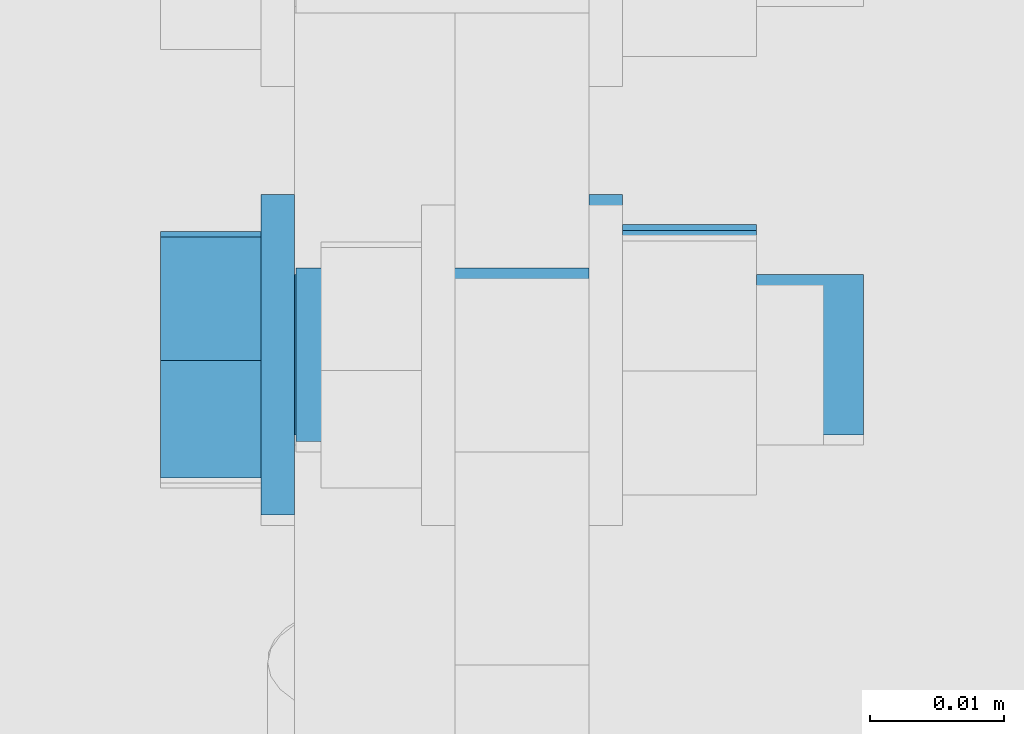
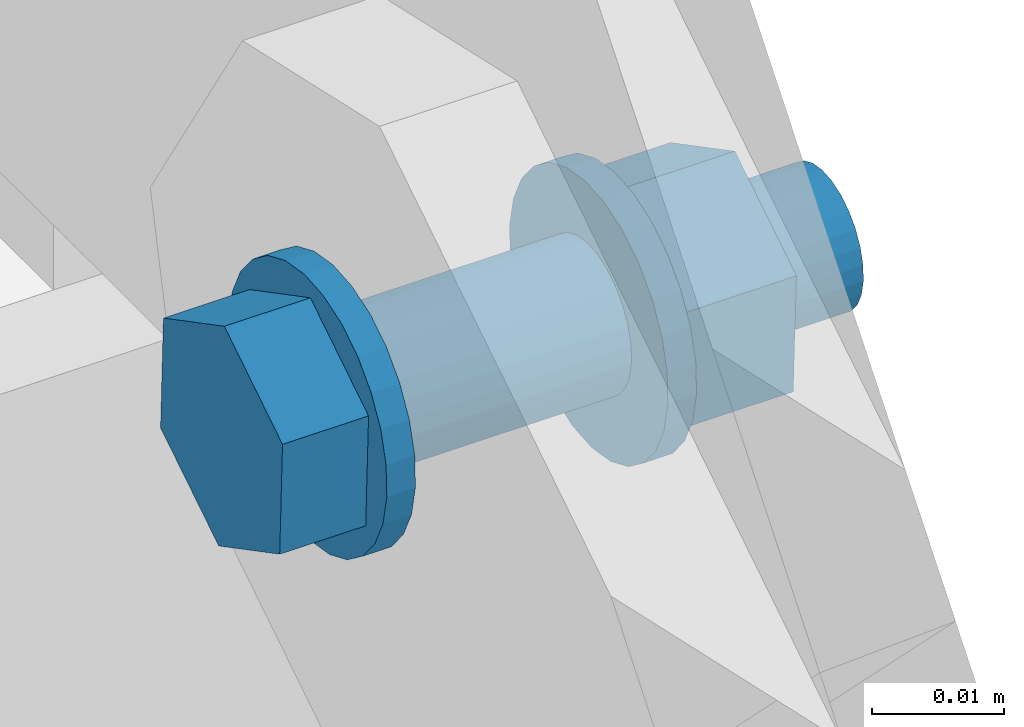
# One storey, part 265 of 271: 1 mechanical fastener, 1 element without a shape of its own.
"""IFC2X3 building model written with IfcOpenShell, lengths in millimetres."""

from ifc_helpers import new_model, si_unit, frame, origin_with_axes, origin_2d_with_axis, place, context, subcontext, project, spatial, polyline, circle, outline, extrude, source, transform, mapped, material, type_object, element, aggregate, save


model = new_model("IFC2X3")

# Units and contexts
model_context = context("Model", 3, precision=1e-05, world=origin_with_axes())
body_context = subcontext(model_context, "Body", "Model", "MODEL_VIEW")
ifc_project = project(units=[si_unit("LENGTHUNIT", "METRE", prefix="MILLI"), si_unit("AREAUNIT", "SQUARE_METRE"), si_unit("VOLUMEUNIT", "CUBIC_METRE"), si_unit("MASSUNIT", "GRAM", prefix="KILO"), si_unit("TIMEUNIT", "SECOND"), si_unit("PLANEANGLEUNIT", "RADIAN"), si_unit("SOLIDANGLEUNIT", "STERADIAN"), si_unit("THERMODYNAMICTEMPERATUREUNIT", "DEGREE_CELSIUS"), si_unit("LUMINOUSINTENSITYUNIT", "LUMEN")], contexts=[model_context])

# Site, building, storey
site_placement = place(None, origin_with_axes())
site = spatial("IfcSite", under=ifc_project, at=site_placement, Name="Undefined", CompositionType="ELEMENT")
building_placement = place(site_placement, origin_with_axes())
building = spatial("IfcBuilding", under=site, at=building_placement, Name="Undefined", CompositionType="ELEMENT")
storey_placement = place(building_placement, origin_with_axes())
storey = spatial("IfcBuildingStorey", under=building, at=storey_placement, Name="Undefined", CompositionType="ELEMENT", Elevation=0.0)

# Assembly, mechanical fastener
assembly_placement = place(storey_placement, origin_with_axes())
assembly = element("IfcElementAssembly", 1, at=assembly_placement, inside=storey, AssemblyPlace="NOTDEFINED", PredefinedType="RIGID_FRAME")
ifc_material = material(Name="Undefined")
mechanical_fastener_type = type_object("IfcMechanicalFastenerType", Name="Bolt assembly")
shared_shape = source(origin_with_axes(), body_context, "Body", "SweptSolid", [
    extrude(circle(Radius=6.5, at=origin_2d_with_axis()), frame((0.0, -5.1, 0.0), z_axis=(0.0, 1.0, 0.0), x_axis=(1.0, 0.0, 0.0)), (0.0, 0.0, 1.0), 10.1),
    extrude(circle(Radius=6.5, at=origin_2d_with_axis()), frame((0.0, -16.9, 0.0), z_axis=(0.0, 1.0, 0.0), x_axis=(1.0, 0.0, 0.0)), (0.0, 0.0, 1.0), 12.0),
    extrude(outline(polyline([(10.39230484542, 0.0), (5.19615242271, 9.00000000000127), (-5.19615242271, 9.00000000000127), (-10.39230484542, 0.0), (-5.19615242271, -9.00000000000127), (5.19615242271, -9.00000000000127), (10.39230484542, 0.0)])), frame((0.0, -27.0, 0.0), z_axis=(0.0, 1.0, 0.0), x_axis=(1.0, 0.0, 0.0)), (0.0, 0.0, 1.0), 7.5),
    extrude(circle(Radius=6.0, at=origin_2d_with_axis()), frame((0.0, -19.5, 0.0), z_axis=(0.0, 1.0, 0.0), x_axis=(1.0, 0.0, 0.0)), (0.0, 0.0, 1.0), 45.0),
    extrude(circle(Radius=12.0, at=origin_2d_with_axis()), frame((0.0, -19.5, 0.0), z_axis=(0.0, 1.0, 0.0), x_axis=(1.0, 0.0, 0.0)), (0.0, 0.0, 1.0), 2.5),
    extrude(circle(Radius=12.0, at=origin_2d_with_axis()), frame((0.0, 5.00000000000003, 0.0), z_axis=(0.0, 1.0, 0.0), x_axis=(1.0, 0.0, 0.0)), (0.0, 0.0, 1.0), 2.5),
    extrude(outline(polyline([(10.96965511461, 0.0), (5.484827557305, 9.50000000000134), (-5.484827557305, 9.50000000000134), (-10.96965511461, 0.0), (-5.484827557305, -9.50000000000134), (5.484827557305, -9.50000000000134), (10.96965511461, 0.0)])), frame((0.0, 7.50000000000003, 0.0), z_axis=(0.0, 1.0, 0.0), x_axis=(1.0, 0.0, 0.0)), (0.0, 0.0, 1.0), 10.0),
])
mechanical_fastener_placement = place(assembly_placement, frame((12608.7513748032, 4216.3586993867, 1287.80632914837), z_axis=(0.0, -0.535126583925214, 0.844771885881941), x_axis=(0.0, -0.844771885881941, -0.535126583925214)))
mechanical_fastener = element("IfcMechanicalFastener", 2, at=mechanical_fastener_placement, type_object=mechanical_fastener_type, material=ifc_material, Name="Bolt assembly", NominalDiameter=12.0, NominalLength=45.0, context=body_context, shape_type="MappedRepresentation", body=[
    mapped(shared_shape, transform((0.0, 0.0, 0.0))),
])
aggregate(assembly, [mechanical_fastener])

save(model, "model.ifc")
